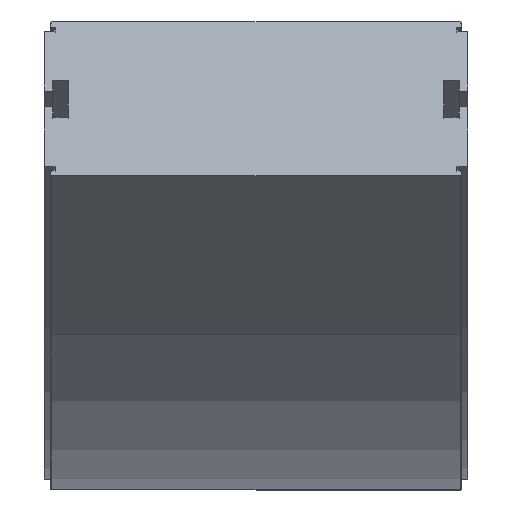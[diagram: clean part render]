
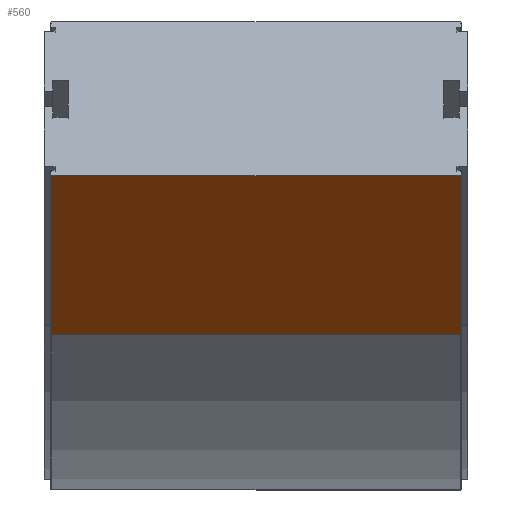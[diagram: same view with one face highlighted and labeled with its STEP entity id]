
A CAD part, top view. The second image highlights one B-rep face of the part: STEP entity #560.
In plain terms, the highlighted planar face has unit normal (0, -0.866, 0.5).
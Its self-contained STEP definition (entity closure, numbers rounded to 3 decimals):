
#34 = VERTEX_POINT ( 'NONE', #1589 ) ;
#44 = DIRECTION ( 'NONE',  ( 0., 0.5, 0.866 ) ) ;
#66 = VECTOR ( 'NONE', #44, 1000. ) ;
#77 = VERTEX_POINT ( 'NONE', #888 ) ;
#115 = CARTESIAN_POINT ( 'NONE',  ( 96.65, 105.614, 550.904 ) ) ;
#188 = DIRECTION ( 'NONE',  ( 0., 0.5, 0.866 ) ) ;
#324 = VECTOR ( 'NONE', #3036, 1000. ) ;
#334 = ORIENTED_EDGE ( 'NONE', *, *, #1453, .T. ) ;
#357 = EDGE_CURVE ( 'NONE', #77, #690, #377, .T. ) ;
#377 = LINE ( 'NONE', #2691, #66 ) ;
#389 = DIRECTION ( 'NONE',  ( 0., 0.5, 0.866 ) ) ;
#417 = CARTESIAN_POINT ( 'NONE',  ( -96.65, 30.614, 421. ) ) ;
#496 = VERTEX_POINT ( 'NONE', #1357 ) ;
#507 = EDGE_CURVE ( 'NONE', #496, #34, #3058, .T. ) ;
#560 = ADVANCED_FACE ( 'NONE', ( #2354 ), #683, .F. ) ;
#614 = CARTESIAN_POINT ( 'NONE',  ( -96.65, 30.614, 421. ) ) ;
#683 = PLANE ( 'NONE',  #2860 ) ;
#690 = VERTEX_POINT ( 'NONE', #115 ) ;
#888 = CARTESIAN_POINT ( 'NONE',  ( 96.65, 30.614, 421. ) ) ;
#920 = CARTESIAN_POINT ( 'NONE',  ( -96.65, 105.614, 550.904 ) ) ;
#1026 = EDGE_CURVE ( 'NONE', #77, #496, #1847, .T. ) ;
#1108 = ORIENTED_EDGE ( 'NONE', *, *, #357, .T. ) ;
#1208 = VECTOR ( 'NONE', #2231, 1000. ) ;
#1357 = CARTESIAN_POINT ( 'NONE',  ( -96.65, 30.614, 421. ) ) ;
#1377 = EDGE_LOOP ( 'NONE', ( #1750, #1108, #334, #1997 ) ) ;
#1453 = EDGE_CURVE ( 'NONE', #690, #34, #2155, .T. ) ;
#1589 = CARTESIAN_POINT ( 'NONE',  ( -96.65, 105.614, 550.904 ) ) ;
#1750 = ORIENTED_EDGE ( 'NONE', *, *, #1026, .F. ) ;
#1847 = LINE ( 'NONE', #2089, #1208 ) ;
#1868 = DIRECTION ( 'NONE',  ( 0., 0.866, -0.5 ) ) ;
#1997 = ORIENTED_EDGE ( 'NONE', *, *, #507, .F. ) ;
#2089 = CARTESIAN_POINT ( 'NONE',  ( -96.65, 30.614, 421. ) ) ;
#2155 = LINE ( 'NONE', #920, #324 ) ;
#2231 = DIRECTION ( 'NONE',  ( -1., 0., 0. ) ) ;
#2354 = FACE_OUTER_BOUND ( 'NONE', #1377, .T. ) ;
#2433 = VECTOR ( 'NONE', #389, 1000. ) ;
#2691 = CARTESIAN_POINT ( 'NONE',  ( 96.65, 30.614, 421. ) ) ;
#2860 = AXIS2_PLACEMENT_3D ( 'NONE', #417, #1868, #188 ) ;
#3036 = DIRECTION ( 'NONE',  ( -1., 0., 0. ) ) ;
#3058 = LINE ( 'NONE', #614, #2433 ) ;
